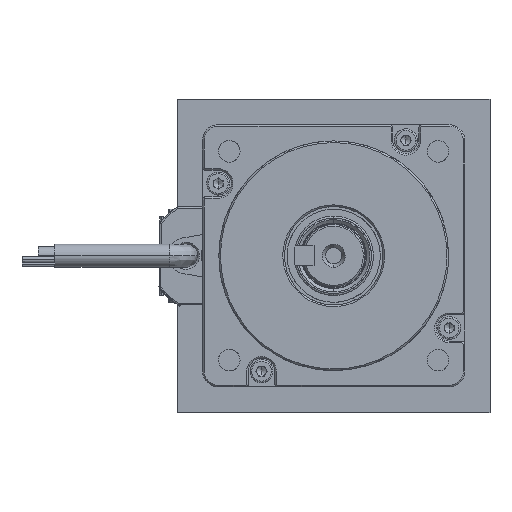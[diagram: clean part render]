
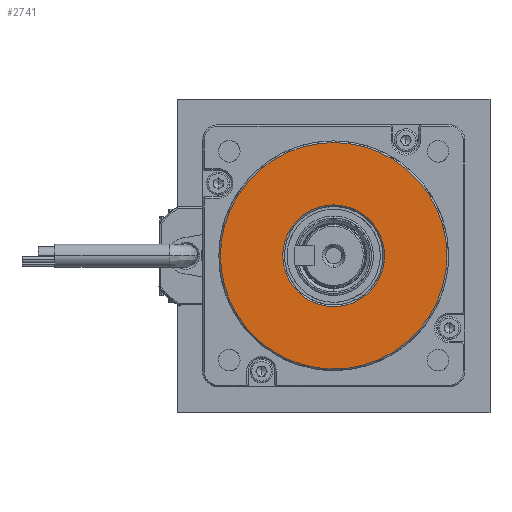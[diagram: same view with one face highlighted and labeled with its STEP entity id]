
A CAD part, left-side view. The second image highlights one B-rep face of the part: STEP entity #2741.
In plain terms, the highlighted planar face has unit normal (-1, 0, 0).
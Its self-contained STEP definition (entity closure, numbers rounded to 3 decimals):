
#79=FACE_BOUND('',#4600,.T.);
#1011=(
BOUNDED_CURVE()
B_SPLINE_CURVE(2,(#40503,#40504,#40505,#40506,#40507),.UNSPECIFIED.,.F.,
 .F.)
B_SPLINE_CURVE_WITH_KNOTS((3,2,3),(0.,24.347,48.695),
 .UNSPECIFIED.)
CURVE()
GEOMETRIC_REPRESENTATION_ITEM()
RATIONAL_B_SPLINE_CURVE((1.,0.707,1.,0.707,1.))
REPRESENTATION_ITEM('')
);
#1012=(
BOUNDED_CURVE()
B_SPLINE_CURVE(2,(#40510,#40511,#40512,#40513,#40514),.UNSPECIFIED.,.F.,
 .F.)
B_SPLINE_CURVE_WITH_KNOTS((3,2,3),(-108.385,-54.192,
0.),.UNSPECIFIED.)
CURVE()
GEOMETRIC_REPRESENTATION_ITEM()
RATIONAL_B_SPLINE_CURVE((1.,0.707,1.,0.707,1.))
REPRESENTATION_ITEM('')
);
#1014=(
BOUNDED_CURVE()
B_SPLINE_CURVE(2,(#40522,#40523,#40524,#40525,#40526),.UNSPECIFIED.,.F.,
 .F.)
B_SPLINE_CURVE_WITH_KNOTS((3,2,3),(0.,54.192,108.385),
 .UNSPECIFIED.)
CURVE()
GEOMETRIC_REPRESENTATION_ITEM()
RATIONAL_B_SPLINE_CURVE((1.,0.707,1.,0.707,1.))
REPRESENTATION_ITEM('')
);
#1017=(
BOUNDED_CURVE()
B_SPLINE_CURVE(2,(#40535,#40536,#40537,#40538,#40539),.UNSPECIFIED.,.F.,
 .F.)
B_SPLINE_CURVE_WITH_KNOTS((3,2,3),(0.,24.347,48.695),
 .UNSPECIFIED.)
CURVE()
GEOMETRIC_REPRESENTATION_ITEM()
RATIONAL_B_SPLINE_CURVE((1.,0.707,1.,0.707,1.))
REPRESENTATION_ITEM('')
);
#2741=ADVANCED_FACE('',(#3638,#79),#14862,.T.);
#3638=FACE_OUTER_BOUND('',#4599,.T.);
#4599=EDGE_LOOP('',(#8248,#8249));
#4600=EDGE_LOOP('',(#8250,#8251));
#8248=ORIENTED_EDGE('',*,*,#11122,.T.);
#8249=ORIENTED_EDGE('',*,*,#11118,.F.);
#8250=ORIENTED_EDGE('',*,*,#11125,.T.);
#8251=ORIENTED_EDGE('',*,*,#11116,.T.);
#11116=EDGE_CURVE('',#14420,#14419,#1011,.T.);
#11118=EDGE_CURVE('',#14421,#14422,#1012,.T.);
#11122=EDGE_CURVE('',#14421,#14422,#1014,.T.);
#11125=EDGE_CURVE('',#14419,#14420,#1017,.T.);
#14419=VERTEX_POINT('',#40212);
#14420=VERTEX_POINT('',#40213);
#14421=VERTEX_POINT('',#40214);
#14422=VERTEX_POINT('',#40215);
#14862=PLANE('',#15168);
#15168=AXIS2_PLACEMENT_3D('',#38865,#15458,$);
#15458=DIRECTION('',(-1.,0.,0.));
#38865=CARTESIAN_POINT('',(4.324,-38.749,-38.674));
#40212=CARTESIAN_POINT('',(4.324,2.652,-12.773));
#40213=CARTESIAN_POINT('',(4.324,2.652,18.227));
#40214=CARTESIAN_POINT('',(4.324,37.152,2.727));
#40215=CARTESIAN_POINT('',(4.324,-31.848,2.727));
#40503=CARTESIAN_POINT('',(4.324,2.652,18.227));
#40504=CARTESIAN_POINT('',(4.324,-12.848,18.227));
#40505=CARTESIAN_POINT('',(4.324,-12.848,2.727));
#40506=CARTESIAN_POINT('',(4.324,-12.848,-12.773));
#40507=CARTESIAN_POINT('',(4.324,2.652,-12.773));
#40510=CARTESIAN_POINT('',(4.324,37.152,2.727));
#40511=CARTESIAN_POINT('',(4.324,37.152,37.227));
#40512=CARTESIAN_POINT('',(4.324,2.652,37.227));
#40513=CARTESIAN_POINT('',(4.324,-31.848,37.227));
#40514=CARTESIAN_POINT('',(4.324,-31.848,2.727));
#40522=CARTESIAN_POINT('',(4.324,37.152,2.727));
#40523=CARTESIAN_POINT('',(4.324,37.152,-31.773));
#40524=CARTESIAN_POINT('',(4.324,2.652,-31.773));
#40525=CARTESIAN_POINT('',(4.324,-31.848,-31.773));
#40526=CARTESIAN_POINT('',(4.324,-31.848,2.727));
#40535=CARTESIAN_POINT('',(4.324,2.652,-12.773));
#40536=CARTESIAN_POINT('',(4.324,18.152,-12.773));
#40537=CARTESIAN_POINT('',(4.324,18.152,2.727));
#40538=CARTESIAN_POINT('',(4.324,18.152,18.227));
#40539=CARTESIAN_POINT('',(4.324,2.652,18.227));
